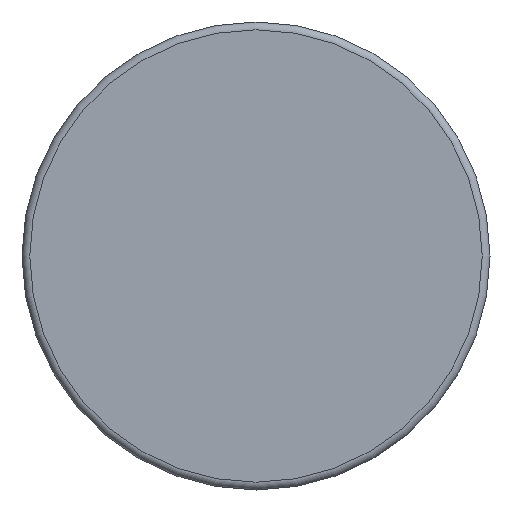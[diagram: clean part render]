
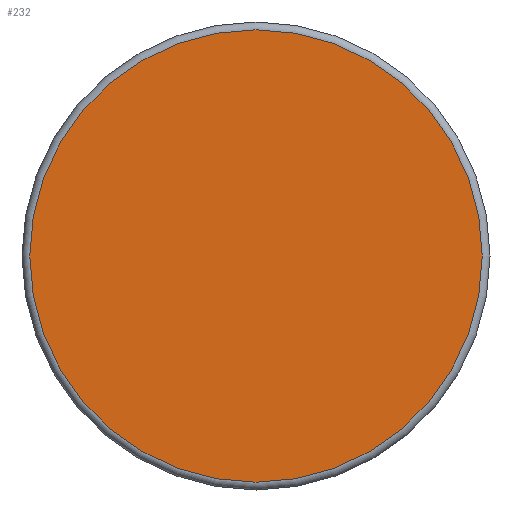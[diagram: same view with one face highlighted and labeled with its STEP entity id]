
A CAD part, front view. The second image highlights one B-rep face of the part: STEP entity #232.
In plain terms, the highlighted planar face has unit normal (0, -1, 0).
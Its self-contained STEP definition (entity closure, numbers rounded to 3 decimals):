
#232 = ADVANCED_FACE( '', ( #444 ), #445, .F. );
#444 = FACE_OUTER_BOUND( '', #640, .T. );
#445 = PLANE( '', #641 );
#640 = EDGE_LOOP( '', ( #1023 ) );
#641 = AXIS2_PLACEMENT_3D( '', #1024, #1025, #1026 );
#1023 = ORIENTED_EDGE( '', *, *, #1192, .T. );
#1024 = CARTESIAN_POINT( '', ( 29., 0., 0. ) );
#1025 = DIRECTION( '', ( 0., 1., 0. ) );
#1026 = DIRECTION( '', ( 0., 0., 1. ) );
#1192 = EDGE_CURVE( '', #1398, #1398, #1399, .T. );
#1398 = VERTEX_POINT( '', #1841 );
#1399 = CIRCLE( '', #1842, 29. );
#1841 = CARTESIAN_POINT( '', ( 0., 0., -29. ) );
#1842 = AXIS2_PLACEMENT_3D( '', #2103, #2104, #2105 );
#2103 = CARTESIAN_POINT( '', ( 0., 0., 0. ) );
#2104 = DIRECTION( '', ( 0., -1., 0. ) );
#2105 = DIRECTION( '', ( 0., 0., -1. ) );
